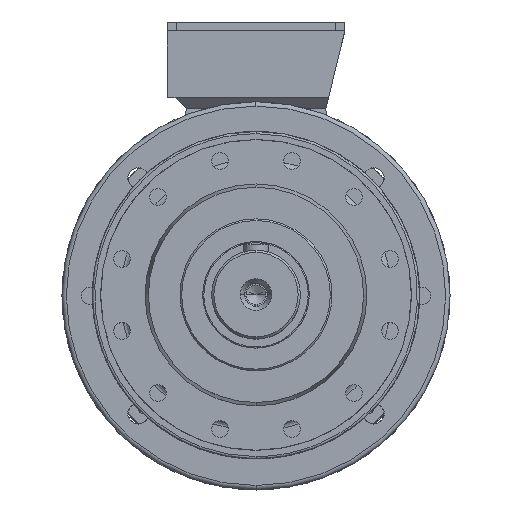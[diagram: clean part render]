
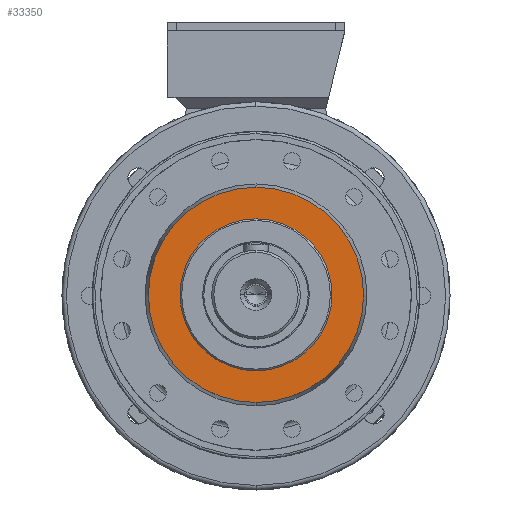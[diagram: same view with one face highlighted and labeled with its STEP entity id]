
A CAD part, top view. The second image highlights one B-rep face of the part: STEP entity #33350.
In plain terms, the highlighted planar face has unit normal (0, 0, 1).
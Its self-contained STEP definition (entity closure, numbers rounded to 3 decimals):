
#1323 = CARTESIAN_POINT ( 'NONE',  ( 0., 0., 147. ) ) ;
#1324 = DIRECTION ( 'NONE',  ( 0., 0., 1. ) ) ;
#1326 = DIRECTION ( 'NONE',  ( -1., 0., 0. ) ) ;
#1533 = DIRECTION ( 'NONE',  ( 0., 0., -1. ) ) ;
#1536 = DIRECTION ( 'NONE',  ( 0., 1., 0. ) ) ;
#1543 = CARTESIAN_POINT ( 'NONE',  ( 0., 0., 147. ) ) ;
#3854 = CARTESIAN_POINT ( 'NONE',  ( 0., 0., 147. ) ) ;
#3871 = DIRECTION ( 'NONE',  ( 0., 0., 1. ) ) ;
#3877 = DIRECTION ( 'NONE',  ( -1., 0., 0. ) ) ;
#4636 = CARTESIAN_POINT ( 'NONE',  ( 0., 0., 147. ) ) ;
#4654 = DIRECTION ( 'NONE',  ( 0., 0., -1. ) ) ;
#4666 = DIRECTION ( 'NONE',  ( 0., 1., 0. ) ) ;
#6204 = EDGE_LOOP ( 'NONE', ( #66295, #67955 ) ) ;
#6252 = EDGE_LOOP ( 'NONE', ( #67914, #67929 ) ) ;
#30373 = PLANE ( 'NONE',  #122362 ) ;
#30384 = CARTESIAN_POINT ( 'NONE',  ( 0., 97., 147. ) ) ;
#30394 = DIRECTION ( 'NONE',  ( 0., 0., -1. ) ) ;
#30399 = DIRECTION ( 'NONE',  ( 0., 1., 0. ) ) ;
#33350 = ADVANCED_FACE ( 'NONE', ( #114186, #114188 ), #30373, .F. ) ;
#66295 = ORIENTED_EDGE ( 'NONE', *, *, #89206, .F. ) ;
#67914 = ORIENTED_EDGE ( 'NONE', *, *, #89305, .F. ) ;
#67929 = ORIENTED_EDGE ( 'NONE', *, *, #89099, .F. ) ;
#67955 = ORIENTED_EDGE ( 'NONE', *, *, #89525, .F. ) ;
#89099 = EDGE_CURVE ( 'NONE', #117182, #117277, #153836, .T. ) ;
#89206 = EDGE_CURVE ( 'NONE', #117304, #117271, #154006, .T. ) ;
#89305 = EDGE_CURVE ( 'NONE', #117277, #117182, #154249, .T. ) ;
#89525 = EDGE_CURVE ( 'NONE', #117271, #117304, #154479, .T. ) ;
#91366 = CARTESIAN_POINT ( 'NONE',  ( 68.5, 0., 147. ) ) ;
#91739 = CARTESIAN_POINT ( 'NONE',  ( -68.5, 0., 147. ) ) ;
#91758 = CARTESIAN_POINT ( 'NONE',  ( 0., 97., 147. ) ) ;
#91887 = CARTESIAN_POINT ( 'NONE',  ( 0., -97., 147. ) ) ;
#114186 = FACE_BOUND ( 'NONE', #6252, .T. ) ;
#114188 = FACE_OUTER_BOUND ( 'NONE', #6204, .T. ) ;
#117182 = VERTEX_POINT ( 'NONE', #91366 ) ;
#117271 = VERTEX_POINT ( 'NONE', #91887 ) ;
#117277 = VERTEX_POINT ( 'NONE', #91739 ) ;
#117304 = VERTEX_POINT ( 'NONE', #91758 ) ;
#122362 = AXIS2_PLACEMENT_3D ( 'NONE', #30384, #30394, #30399 ) ;
#145827 = AXIS2_PLACEMENT_3D ( 'NONE', #1323, #1324, #1326 ) ;
#145860 = AXIS2_PLACEMENT_3D ( 'NONE', #1543, #1533, #1536 ) ;
#146012 = AXIS2_PLACEMENT_3D ( 'NONE', #3854, #3871, #3877 ) ;
#146097 = AXIS2_PLACEMENT_3D ( 'NONE', #4636, #4654, #4666 ) ;
#153836 = CIRCLE ( 'NONE', #145827, 68.5 ) ;
#154006 = CIRCLE ( 'NONE', #145860, 97. ) ;
#154249 = CIRCLE ( 'NONE', #146012, 68.5 ) ;
#154479 = CIRCLE ( 'NONE', #146097, 97. ) ;
